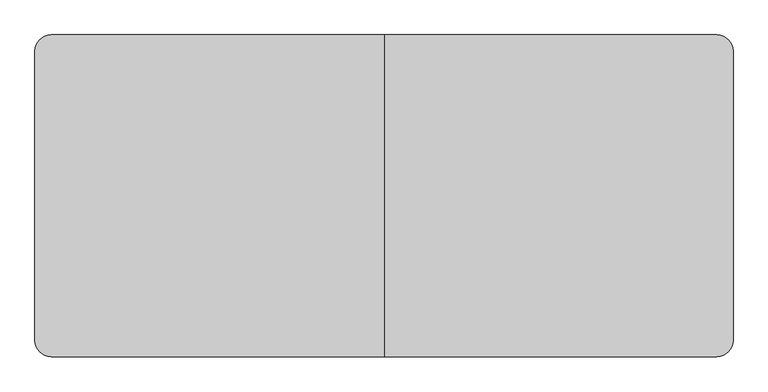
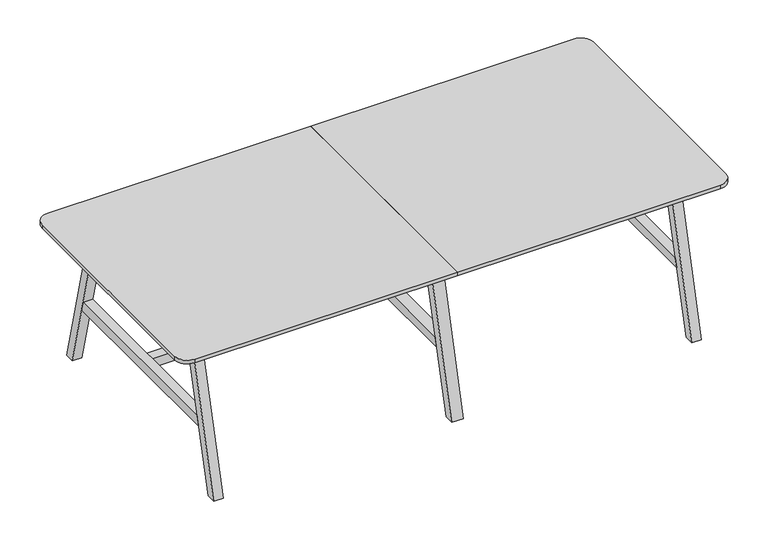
"""IFC4 building model written with IfcOpenShell, lengths in millimetres: furniture geometry, BDG_BossDesign_Tbls_AgentTables6Legs : AGE-DT-6L-2600-1200-3D."""

from ifc_helpers import new_model, si_unit, point, frame, frame_2d, origin, place, context, project, spatial, polyline, circle_curve, trimmed, segment, composite_curve, outline, extrude, source, transform, mapped, element, save


def furniture_b79d2082(model_context):
    return source(origin(), model_context, "Body", "SweptSolid", [
        extrude(outline(polyline([(600.0, 0.0), (554.9999949, 0.0), (385.5, 660.0), (430.5000051, 660.0), (600.0, 0.0)])), frame((-27.5, 0.0, 0.0), z_axis=(1.0, 0.0, 0.0), x_axis=(0.0, 1.0, 0.0)), (0.0, 0.0, 1.0), 55.0),
        extrude(outline(polyline([(-600.0, 0.0), (-430.5000051, 660.0), (-385.5, 660.0), (-554.9999949, 0.0), (-600.0, 0.0)])), frame((-27.5, 0.0, 0.0), z_axis=(1.0, 0.0, 0.0), x_axis=(0.0, 1.0, 0.0)), (0.0, 0.0, 1.0), 55.0),
        extrude(outline(polyline([(477.9545427, 300.0), (-477.9545427, 300.0), (-466.3977249, 345.0), (466.3977249, 345.0), (477.9545427, 300.0)])), frame((-27.5, 0.0, 0.0), z_axis=(1.0, 0.0, 0.0), x_axis=(0.0, 1.0, 0.0)), (0.0, 0.0, 1.0), 55.0),
        extrude(outline(composite_curve([segment(polyline([(0.0, 600.0), (0.0, -600.0), (-1240.0, -600.0)]), True, "CONTINUOUS"), segment(trimmed(circle_curve(frame_2d((-1240.0, -540.0)), 60.0), [point((-1240.0, -600.0))], [point((-1300.0, -540.0))], False, "CARTESIAN"), True, "CONTINUOUS"), segment(polyline([(-1300.0, -540.0), (-1300.0, 540.0)]), True, "CONTINUOUS"), segment(trimmed(circle_curve(frame_2d((-1240.0, 540.0)), 60.0), [point((-1300.0, 540.0))], [point((-1240.0, 600.0))], False, "CARTESIAN"), True, "CONTINUOUS"), segment(polyline([(-1240.0, 600.0), (0.0, 600.0)]), True, "CONTINUOUS")], self_intersect=False)), frame((0.0, 0.0, 722.0), z_axis=(0.0, 0.0, 1.0), x_axis=(1.0, 0.0, 0.0)), (0.0, 0.0, 1.0), 18.0),
        extrude(outline(polyline([(-466.3977249, 345.0), (466.3977249, 345.0), (477.9545427, 300.0), (-477.9545427, 300.0), (-466.3977249, 345.0)])), frame((1105.0, 0.0, 0.0), z_axis=(1.0, 0.0, 0.0), x_axis=(0.0, 1.0, 0.0)), (0.0, 0.0, 1.0), 45.0),
        extrude(outline(polyline([(600.0, 0.0), (554.9999949, 0.0), (385.5, 660.0), (430.5000051, 660.0), (600.0, 0.0)])), frame((-1150.0, 0.0, 0.0), z_axis=(1.0, 0.0, 0.0), x_axis=(0.0, 1.0, 0.0)), (0.0, 0.0, 1.0), 45.0),
        extrude(outline(polyline([(-600.0, 0.0), (-430.5000051, 660.0), (-385.5, 660.0), (-554.9999949, 0.0), (-600.0, 0.0)])), frame((-1150.0, 0.0, 0.0), z_axis=(1.0, 0.0, 0.0), x_axis=(0.0, 1.0, 0.0)), (0.0, 0.0, 1.0), 45.0),
        extrude(outline(polyline([(-466.3977249, 345.0), (466.3977249, 345.0), (477.9545427, 300.0), (-477.9545427, 300.0), (-466.3977249, 345.0)])), frame((-1150.0, 0.0, 0.0), z_axis=(1.0, 0.0, 0.0), x_axis=(0.0, 1.0, 0.0)), (0.0, 0.0, 1.0), 45.0),
        extrude(outline(polyline([(-426.6006165, 634.973938), (-404.2770691, 722.0), (-379.5, 722.0), (-401.8235474, 634.973938), (-426.6006165, 634.973938)])), frame((-1105.0, 0.0, 0.0), z_axis=(1.0, 0.0, 0.0), x_axis=(0.0, 1.0, 0.0)), (0.0, 0.0, 1.0), 2210.0),
        extrude(outline(polyline([(426.6006165, 634.973938), (401.8235474, 634.973938), (379.5, 722.0), (404.2770691, 722.0), (426.6006165, 634.973938)])), frame((-1105.0, 0.0, 0.0), z_axis=(1.0, 0.0, 0.0), x_axis=(0.0, 1.0, 0.0)), (0.0, 0.0, 1.0), 2210.0),
        extrude(outline(polyline([(599.7999878, 0.0), (554.7999827, 0.0), (385.5, 660.0), (430.5000051, 660.0), (599.7999878, 0.0)])), frame((1105.0, 0.0, 0.0), z_axis=(1.0, 0.0, 0.0), x_axis=(0.0, 1.0, 0.0)), (0.0, 0.0, 1.0), 45.0),
        extrude(outline(polyline([(-599.7999878, 0.0), (-430.5000051, 660.0), (-385.5, 660.0), (-554.7999827, 0.0), (-599.7999878, 0.0)])), frame((1105.0, 0.0, 0.0), z_axis=(1.0, 0.0, 0.0), x_axis=(0.0, 1.0, 0.0)), (0.0, 0.0, 1.0), 45.0),
        extrude(outline(polyline([(-27.5, 22.5000305), (-27.5, -22.5000305), (-1105.0, -22.5000305), (-1105.0, 22.5000305), (-27.5, 22.5000305)])), frame((0.0, 0.0, 300.0), z_axis=(0.0, 0.0, 1.0), x_axis=(1.0, 0.0, 0.0)), (0.0, 0.0, 1.0), 45.0),
        extrude(outline(polyline([(27.5, -22.5000305), (27.5, 22.5000305), (1105.0, 22.5000305), (1105.0, -22.5000305), (27.5, -22.5000305)])), frame((0.0, 0.0, 300.0), z_axis=(0.0, 0.0, 1.0), x_axis=(1.0, 0.0, 0.0)), (0.0, 0.0, 1.0), 45.0),
        extrude(outline(composite_curve([segment(trimmed(circle_curve(frame_2d((1240.0, 540.0)), 60.0), [point((1240.0, 600.0))], [point((1300.0, 540.0))], False, "CARTESIAN"), True, "CONTINUOUS"), segment(polyline([(1300.0, 540.0), (1300.0, -540.0)]), True, "CONTINUOUS"), segment(trimmed(circle_curve(frame_2d((1240.0, -540.0)), 60.0), [point((1300.0, -540.0))], [point((1240.0, -600.0))], False, "CARTESIAN"), True, "CONTINUOUS"), segment(polyline([(1240.0, -600.0), (0.0, -600.0), (0.0, 600.0), (1240.0, 600.0)]), True, "CONTINUOUS")], self_intersect=False)), frame((0.0, 0.0, 722.0), z_axis=(0.0, 0.0, 1.0), x_axis=(1.0, 0.0, 0.0)), (0.0, 0.0, 1.0), 18.0),
    ])


if __name__ == "__main__":
    model = new_model("IFC4")
    model_context = context("Model", 3, world=origin())
    ifc_project = project(units=[si_unit("LENGTHUNIT", "METRE", prefix="MILLI")], contexts=[model_context])
    site = spatial("IfcSite", under=ifc_project)
    building = spatial("IfcBuilding", under=site)
    placement = place(None, origin())
    furniture_shape = furniture_b79d2082(model_context)
    element("IfcFurniture", 1, ObjectType="BDG_BossDesign_Tbls_AgentTables6Legs : AGE-DT-6L-2600-1200-3D", at=placement, inside=building, context=model_context, shape_type="MappedRepresentation", body=[
        mapped(furniture_shape, transform((0.0, 0.0, 0.0), x_axis=(1.0, 0.0, 0.0), y_axis=(0.0, 1.0, 0.0), z_axis=(0.0, 0.0, 1.0))),
    ])
    save(model, "model.ifc")
